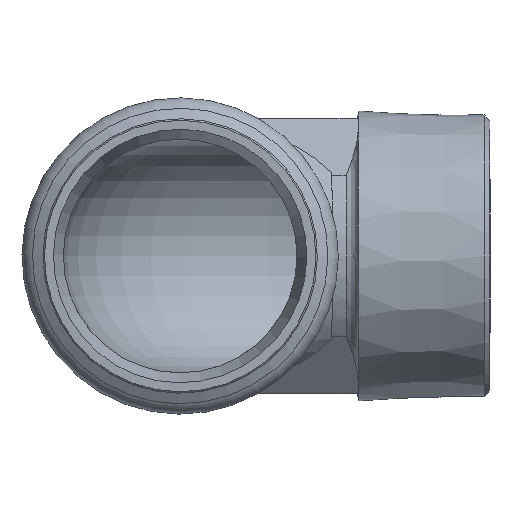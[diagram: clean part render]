
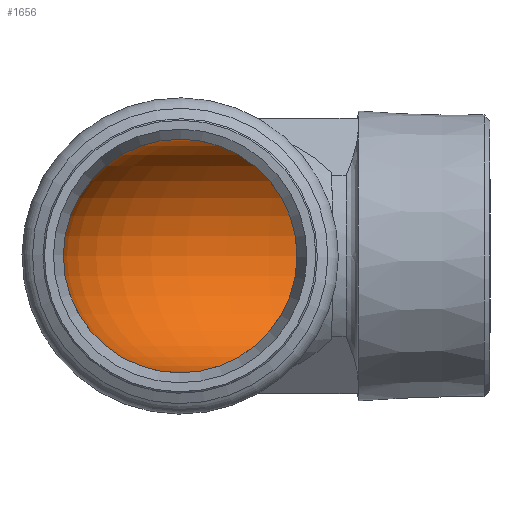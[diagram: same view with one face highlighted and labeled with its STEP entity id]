
A CAD part, left-side view. The second image highlights one B-rep face of the part: STEP entity #1656.
In plain terms, the highlighted toroidal (fillet/blend) face has major radius 25.7 mm and minor radius 19.5 mm.
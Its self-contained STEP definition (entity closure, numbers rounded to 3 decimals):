
#1589=CARTESIAN_POINT('',(19.5,-25.7,0.));
#1590=VERTEX_POINT('',#1589);
#1591=CARTESIAN_POINT('',(0.,-25.7,0.0));
#1592=DIRECTION('',(0.0,-1.0,0.0));
#1593=DIRECTION('',(-1.0,0.0,0.0));
#1594=AXIS2_PLACEMENT_3D('',#1591,#1592,#1593);
#1595=CIRCLE('',#1594,19.5);
#1596=EDGE_CURVE('',#1590,#1590,#1595,.T.);
#1637=CARTESIAN_POINT('',(-25.7,-25.7,0.0));
#1638=DIRECTION('',(0.0,0.0,-1.0));
#1639=DIRECTION('',(-1.0,0.0,0.0));
#1640=AXIS2_PLACEMENT_3D('',#1637,#1638,#1639);
#1641=TOROIDAL_SURFACE('',#1640,25.7,19.5);
#1642=ORIENTED_EDGE('',*,*,#1596,.T.);
#1643=EDGE_LOOP('',(#1642));
#1644=FACE_OUTER_BOUND('',#1643,.T.);
#1645=CARTESIAN_POINT('',(-25.7,0.,-19.5));
#1646=VERTEX_POINT('',#1645);
#1647=CARTESIAN_POINT('',(-25.7,0.,0.0));
#1648=DIRECTION('',(1.0,0.0,0.0));
#1649=DIRECTION('',(0.0,1.0,0.0));
#1650=AXIS2_PLACEMENT_3D('',#1647,#1648,#1649);
#1651=CIRCLE('',#1650,19.5);
#1652=EDGE_CURVE('',#1646,#1646,#1651,.T.);
#1653=ORIENTED_EDGE('',*,*,#1652,.F.);
#1654=EDGE_LOOP('',(#1653));
#1655=FACE_BOUND('',#1654,.T.);
#1656=ADVANCED_FACE('',(#1644,#1655),#1641,.F.);
